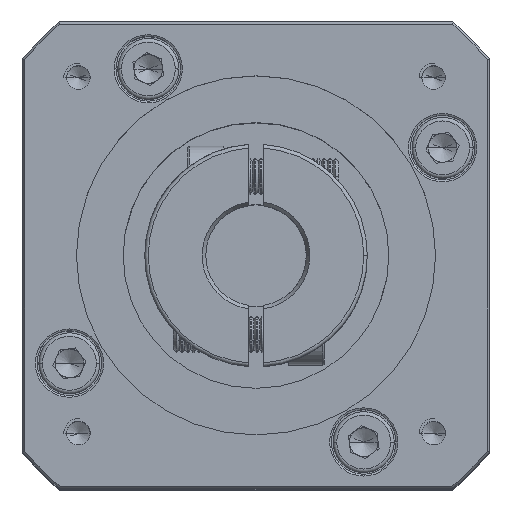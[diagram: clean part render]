
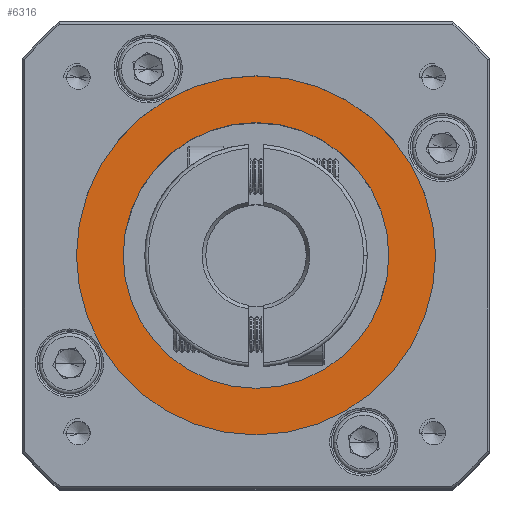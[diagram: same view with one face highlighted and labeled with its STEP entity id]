
A CAD part, top view. The second image highlights one B-rep face of the part: STEP entity #6316.
In plain terms, the highlighted planar face has unit normal (0, 0, 1).
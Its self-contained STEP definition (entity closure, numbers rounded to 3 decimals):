
#1079 = CARTESIAN_POINT ( 'NONE',  ( -63.59, 29.291, 0.97 ) ) ;
#3404 = FACE_OUTER_BOUND ( 'NONE', #71288, .T. ) ;
#3724 = ORIENTED_EDGE ( 'NONE', *, *, #50286, .T. ) ;
#4959 = CARTESIAN_POINT ( 'NONE',  ( -45.09, 29.291, 0.97 ) ) ;
#6316 = ADVANCED_FACE ( 'NONE', ( #3404, #103964 ), #28071, .T. ) ;
#6675 = EDGE_CURVE ( 'NONE', #84802, #112092, #55289, .T. ) ;
#6909 = DIRECTION ( 'NONE',  ( 0., 0., -1. ) ) ;
#8602 = CARTESIAN_POINT ( 'NONE',  ( -45.09, 29.291, 0.97 ) ) ;
#10435 = DIRECTION ( 'NONE',  ( 0., 0., 1. ) ) ;
#12967 = ORIENTED_EDGE ( 'NONE', *, *, #92416, .T. ) ;
#14797 = DIRECTION ( 'NONE',  ( 1., 0., 0. ) ) ;
#15238 = DIRECTION ( 'NONE',  ( 1., 0., 0. ) ) ;
#18361 = ORIENTED_EDGE ( 'NONE', *, *, #101091, .T. ) ;
#19141 = DIRECTION ( 'NONE',  ( 1., 0., 0. ) ) ;
#24858 = CIRCLE ( 'NONE', #63988, 25. ) ;
#25737 = CARTESIAN_POINT ( 'NONE',  ( -26.59, 29.291, 0.97 ) ) ;
#27584 = DIRECTION ( 'NONE',  ( 0., 0., -1. ) ) ;
#28071 = PLANE ( 'NONE',  #85978 ) ;
#30202 = AXIS2_PLACEMENT_3D ( 'NONE', #4959, #105496, #14797 ) ;
#30843 = CARTESIAN_POINT ( 'NONE',  ( -45.09, 29.291, 0.97 ) ) ;
#32895 = AXIS2_PLACEMENT_3D ( 'NONE', #8602, #27584, #54924 ) ;
#46461 = CARTESIAN_POINT ( 'NONE',  ( -45.09, 29.291, 0.97 ) ) ;
#47992 = CARTESIAN_POINT ( 'NONE',  ( -20.09, 29.291, 0.97 ) ) ;
#50286 = EDGE_CURVE ( 'NONE', #112092, #84802, #55196, .T. ) ;
#54924 = DIRECTION ( 'NONE',  ( 1., 0., 0. ) ) ;
#55196 = CIRCLE ( 'NONE', #104549, 18.5 ) ;
#55289 = CIRCLE ( 'NONE', #32895, 18.5 ) ;
#63988 = AXIS2_PLACEMENT_3D ( 'NONE', #46461, #10435, #19141 ) ;
#64079 = ORIENTED_EDGE ( 'NONE', *, *, #6675, .T. ) ;
#71288 = EDGE_LOOP ( 'NONE', ( #18361, #12967 ) ) ;
#84802 = VERTEX_POINT ( 'NONE', #1079 ) ;
#85978 = AXIS2_PLACEMENT_3D ( 'NONE', #30843, #91428, #103733 ) ;
#91428 = DIRECTION ( 'NONE',  ( 0., 0., 1. ) ) ;
#92416 = EDGE_CURVE ( 'NONE', #94026, #97807, #24858, .T. ) ;
#94026 = VERTEX_POINT ( 'NONE', #110079 ) ;
#97807 = VERTEX_POINT ( 'NONE', #47992 ) ;
#101037 = EDGE_LOOP ( 'NONE', ( #3724, #64079 ) ) ;
#101091 = EDGE_CURVE ( 'NONE', #97807, #94026, #104132, .T. ) ;
#103733 = DIRECTION ( 'NONE',  ( 1., 0., 0. ) ) ;
#103964 = FACE_BOUND ( 'NONE', #101037, .T. ) ;
#104132 = CIRCLE ( 'NONE', #30202, 25. ) ;
#104549 = AXIS2_PLACEMENT_3D ( 'NONE', #114206, #6909, #15238 ) ;
#105496 = DIRECTION ( 'NONE',  ( 0., 0., 1. ) ) ;
#110079 = CARTESIAN_POINT ( 'NONE',  ( -70.09, 29.291, 0.97 ) ) ;
#112092 = VERTEX_POINT ( 'NONE', #25737 ) ;
#114206 = CARTESIAN_POINT ( 'NONE',  ( -45.09, 29.291, 0.97 ) ) ;
